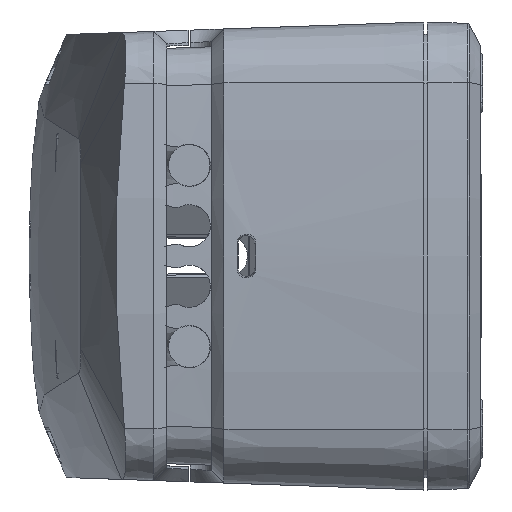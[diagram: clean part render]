
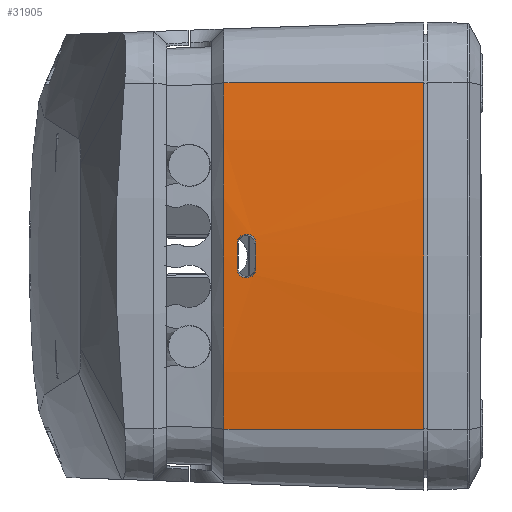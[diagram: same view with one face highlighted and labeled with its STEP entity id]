
A CAD part, left-side view. The second image highlights one B-rep face of the part: STEP entity #31905.
In plain terms, the highlighted conical face has half-angle 2 degrees and reference radius 199.529 mm.
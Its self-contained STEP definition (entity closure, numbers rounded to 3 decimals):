
#2285=CARTESIAN_POINT('',(110.5,0.25,0.));
#2286=DIRECTION('',(0.,1.,0.));
#2287=DIRECTION('',(-0.993,0.,-0.115));
#2288=AXIS2_PLACEMENT_3D('',#2285,#2286,#2287);
#2290=CARTESIAN_POINT('',(110.5,0.25,0.));
#2291=DIRECTION('',(0.,1.,0.));
#2292=DIRECTION('',(-1.,0.,0.));
#2293=AXIS2_PLACEMENT_3D('',#2290,#2291,#2292);
#2362=DIRECTION('',(-0.035,-0.999,-0.004));
#2363=VECTOR('',#2362,26.467);
#2364=CARTESIAN_POINT('',(-87.243,26.701,
-22.929));
#2365=LINE('',#2364,#2363);
#4050=CARTESIAN_POINT('',(-88.707,22.501,1.678));
#4051=CARTESIAN_POINT('',(-88.709,22.501,1.492));
#4052=CARTESIAN_POINT('',(-88.711,22.501,1.119));
#4053=CARTESIAN_POINT('',(-88.714,22.501,
0.559));
#4054=CARTESIAN_POINT('',(-88.714,22.501,
0.186));
#4055=CARTESIAN_POINT('',(-88.714,22.501,0.));
#4057=CARTESIAN_POINT('',(-88.714,22.501,0.));
#4058=CARTESIAN_POINT('',(-88.714,22.501,
-0.186));
#4059=CARTESIAN_POINT('',(-88.714,22.501,
-0.559));
#4060=CARTESIAN_POINT('',(-88.711,22.501,
-1.119));
#4061=CARTESIAN_POINT('',(-88.709,22.501,
-1.492));
#4062=CARTESIAN_POINT('',(-88.707,22.501,
-1.678));
#4696=CARTESIAN_POINT('',(-88.622,24.951,
-1.678));
#4697=CARTESIAN_POINT('',(-88.623,24.951,
-1.492));
#4698=CARTESIAN_POINT('',(-88.626,24.951,
-1.119));
#4699=CARTESIAN_POINT('',(-88.628,24.951,
-0.559));
#4700=CARTESIAN_POINT('',(-88.629,24.951,
-0.186));
#4701=CARTESIAN_POINT('',(-88.629,24.951,
0.));
#4703=CARTESIAN_POINT('',(-88.629,24.951,
0.));
#4704=CARTESIAN_POINT('',(-88.629,24.951,
0.186));
#4705=CARTESIAN_POINT('',(-88.628,24.951,
0.559));
#4706=CARTESIAN_POINT('',(-88.626,24.951,1.119));
#4707=CARTESIAN_POINT('',(-88.623,24.951,1.492));
#4708=CARTESIAN_POINT('',(-88.622,24.951,1.678));
#4710=DIRECTION('',(-0.035,-0.999,0.004));
#4711=VECTOR('',#4710,26.467);
#4712=CARTESIAN_POINT('',(-87.243,26.701,22.929));
#4713=LINE('',#4712,#4711);
#4714=CARTESIAN_POINT('',(-88.622,24.951,
-1.678));
#4715=CARTESIAN_POINT('',(-88.621,24.951,
-1.754));
#4716=CARTESIAN_POINT('',(-88.62,24.938,
-1.903));
#4717=CARTESIAN_POINT('',(-88.62,24.874,
-2.125));
#4718=CARTESIAN_POINT('',(-88.621,24.773,
-2.327));
#4719=CARTESIAN_POINT('',(-88.624,24.637,
-2.507));
#4720=CARTESIAN_POINT('',(-88.628,24.467,
-2.662));
#4721=CARTESIAN_POINT('',(-88.633,24.276,
-2.781));
#4722=CARTESIAN_POINT('',(-88.639,24.063,
-2.863));
#4723=CARTESIAN_POINT('',(-88.646,23.838,
-2.905));
#4724=CARTESIAN_POINT('',(-88.654,23.615,
-2.905));
#4725=CARTESIAN_POINT('',(-88.663,23.391,
-2.863));
#4726=CARTESIAN_POINT('',(-88.671,23.179,
-2.781));
#4727=CARTESIAN_POINT('',(-88.679,22.988,
-2.664));
#4728=CARTESIAN_POINT('',(-88.687,22.818,
-2.51));
#4729=CARTESIAN_POINT('',(-88.694,22.682,
-2.33));
#4730=CARTESIAN_POINT('',(-88.7,22.579,
-2.127));
#4731=CARTESIAN_POINT('',(-88.705,22.515,
-1.904));
#4732=CARTESIAN_POINT('',(-88.707,22.501,
-1.755));
#4733=CARTESIAN_POINT('',(-88.707,22.501,
-1.678));
#4735=CARTESIAN_POINT('',(-88.707,22.501,1.678));
#4736=CARTESIAN_POINT('',(-88.707,22.501,1.754));
#4737=CARTESIAN_POINT('',(-88.705,22.515,1.903));
#4738=CARTESIAN_POINT('',(-88.7,22.578,2.125));
#4739=CARTESIAN_POINT('',(-88.694,22.68,2.327));
#4740=CARTESIAN_POINT('',(-88.688,22.815,2.508));
#4741=CARTESIAN_POINT('',(-88.68,22.986,2.663));
#4742=CARTESIAN_POINT('',(-88.671,23.178,2.781));
#4743=CARTESIAN_POINT('',(-88.663,23.39,2.863));
#4744=CARTESIAN_POINT('',(-88.654,23.615,2.905));
#4745=CARTESIAN_POINT('',(-88.646,23.839,2.905));
#4746=CARTESIAN_POINT('',(-88.639,24.062,2.863));
#4747=CARTESIAN_POINT('',(-88.633,24.274,2.781));
#4748=CARTESIAN_POINT('',(-88.628,24.465,2.664));
#4749=CARTESIAN_POINT('',(-88.624,24.635,2.51));
#4750=CARTESIAN_POINT('',(-88.621,24.771,2.33));
#4751=CARTESIAN_POINT('',(-88.62,24.874,2.127));
#4752=CARTESIAN_POINT('',(-88.62,24.937,1.904));
#4753=CARTESIAN_POINT('',(-88.621,24.951,1.754));
#4754=CARTESIAN_POINT('',(-88.622,24.951,1.678));
#4756=CARTESIAN_POINT('',(110.5,26.701,0.));
#4757=DIRECTION('',(0.,-1.,0.));
#4758=DIRECTION('',(-0.993,0.,0.115));
#4759=AXIS2_PLACEMENT_3D('',#4756,#4757,#4758);
#4761=CARTESIAN_POINT('',(110.5,26.701,0.));
#4762=DIRECTION('',(0.,-1.,0.));
#4763=DIRECTION('',(-1.,0.,0.));
#4764=AXIS2_PLACEMENT_3D('',#4761,#4762,#4763);
#23466=CARTESIAN_POINT('',(-88.16,0.25,
-23.036));
#23468=VERTEX_POINT('',#23466);
#23469=CARTESIAN_POINT('',(-89.491,0.25,
0.));
#23470=CARTESIAN_POINT('',(-88.16,0.25,
23.036));
#23471=VERTEX_POINT('',#23469);
#23472=VERTEX_POINT('',#23470);
#23497=CARTESIAN_POINT('',(-87.243,26.701,
-22.929));
#23499=VERTEX_POINT('',#23497);
#24348=CARTESIAN_POINT('',(-88.707,22.501,
1.678));
#24350=VERTEX_POINT('',#24348);
#24351=VERTEX_POINT('',#4057);
#24352=VERTEX_POINT('',#4062);
#24435=CARTESIAN_POINT('',(-88.622,24.951,
1.678));
#24436=VERTEX_POINT('',#24435);
#24481=CARTESIAN_POINT('',(-88.622,24.951,
-1.678));
#24482=VERTEX_POINT('',#24481);
#24483=VERTEX_POINT('',#4701);
#24484=CARTESIAN_POINT('',(-88.568,26.701,
0.));
#24485=VERTEX_POINT('',#24484);
#24486=CARTESIAN_POINT('',(-87.243,26.701,
22.929));
#24487=VERTEX_POINT('',#24486);
#31881=CARTESIAN_POINT('',(110.5,13.475,0.));
#31882=DIRECTION('',(0.,-1.,0.));
#31883=DIRECTION('',(-1.,0.,0.));
#31884=AXIS2_PLACEMENT_3D('',#31881,#31882,#31883);
#31885=CONICAL_SURFACE('',#31884,199.529,2.);
#31887=ORIENTED_EDGE('',*,*,#31886,.F.);
#31889=ORIENTED_EDGE('',*,*,#31888,.F.);
#31891=ORIENTED_EDGE('',*,*,#31890,.T.);
#31892=ORIENTED_EDGE('',*,*,#29501,.F.);
#31893=ORIENTED_EDGE('',*,*,#29499,.F.);
#31894=ORIENTED_EDGE('',*,*,#29544,.F.);
#31895=EDGE_LOOP('',(#31887,#31889,#31891,#31892,#31893,#31894));
#31896=FACE_OUTER_BOUND('',#31895,.F.);
#31897=ORIENTED_EDGE('',*,*,#31876,.F.);
#31898=ORIENTED_EDGE('',*,*,#31874,.F.);
#31899=ORIENTED_EDGE('',*,*,#31860,.T.);
#31900=ORIENTED_EDGE('',*,*,#31351,.F.);
#31901=ORIENTED_EDGE('',*,*,#31349,.F.);
#31902=ORIENTED_EDGE('',*,*,#31457,.T.);
#31903=EDGE_LOOP('',(#31897,#31898,#31899,#31900,#31901,#31902));
#31904=FACE_BOUND('',#31903,.F.);
#2289=CIRCLE('',#2288,199.991);
#2294=CIRCLE('',#2293,199.991);
#4056=B_SPLINE_CURVE_WITH_KNOTS('',3,(#4050,#4051,#4052,#4053,#4054,#4055),
.UNSPECIFIED.,.F.,.F.,(4,1,1,4),(0.,0.333,0.667,1.),
.UNSPECIFIED.);
#4063=B_SPLINE_CURVE_WITH_KNOTS('',3,(#4057,#4058,#4059,#4060,#4061,#4062),
.UNSPECIFIED.,.F.,.F.,(4,1,1,4),(0.,0.333,0.667,1.),
.UNSPECIFIED.);
#4702=B_SPLINE_CURVE_WITH_KNOTS('',3,(#4696,#4697,#4698,#4699,#4700,#4701),
.UNSPECIFIED.,.F.,.F.,(4,1,1,4),(0.,0.333,0.667,1.),
.UNSPECIFIED.);
#4709=B_SPLINE_CURVE_WITH_KNOTS('',3,(#4703,#4704,#4705,#4706,#4707,#4708),
.UNSPECIFIED.,.F.,.F.,(4,1,1,4),(0.,0.333,0.667,1.),
.UNSPECIFIED.);
#4734=B_SPLINE_CURVE_WITH_KNOTS('',3,(#4714,#4715,#4716,#4717,#4718,#4719,#4720,
#4721,#4722,#4723,#4724,#4725,#4726,#4727,#4728,#4729,#4730,#4731,#4732,#4733),
.UNSPECIFIED.,.F.,.F.,(4,1,1,1,1,1,1,1,1,1,1,1,1,1,1,1,1,4),(0.,
0.059,0.118,0.176,0.235,
0.294,0.353,0.412,0.471,
0.529,0.588,0.647,0.706,
0.765,0.824,0.882,0.941,1.),
.UNSPECIFIED.);
#4755=B_SPLINE_CURVE_WITH_KNOTS('',3,(#4735,#4736,#4737,#4738,#4739,#4740,#4741,
#4742,#4743,#4744,#4745,#4746,#4747,#4748,#4749,#4750,#4751,#4752,#4753,#4754),
.UNSPECIFIED.,.F.,.F.,(4,1,1,1,1,1,1,1,1,1,1,1,1,1,1,1,1,4),(0.,
0.059,0.118,0.176,0.235,
0.294,0.353,0.412,0.471,
0.529,0.588,0.647,0.706,
0.765,0.824,0.882,0.941,1.),
.UNSPECIFIED.);
#4760=CIRCLE('',#4759,199.068);
#4765=CIRCLE('',#4764,199.068);
#29499=EDGE_CURVE('',#23468,#23471,#2289,.T.);
#29501=EDGE_CURVE('',#23471,#23472,#2294,.T.);
#29544=EDGE_CURVE('',#23499,#23468,#2365,.T.);
#31349=EDGE_CURVE('',#24350,#24351,#4056,.T.);
#31351=EDGE_CURVE('',#24351,#24352,#4063,.T.);
#31457=EDGE_CURVE('',#24350,#24436,#4755,.T.);
#31860=EDGE_CURVE('',#24482,#24352,#4734,.T.);
#31874=EDGE_CURVE('',#24482,#24483,#4702,.T.);
#31876=EDGE_CURVE('',#24483,#24436,#4709,.T.);
#31886=EDGE_CURVE('',#24485,#23499,#4765,.T.);
#31888=EDGE_CURVE('',#24487,#24485,#4760,.T.);
#31890=EDGE_CURVE('',#24487,#23472,#4713,.T.);
#31905=ADVANCED_FACE('',(#31896,#31904),#31885,.T.);
